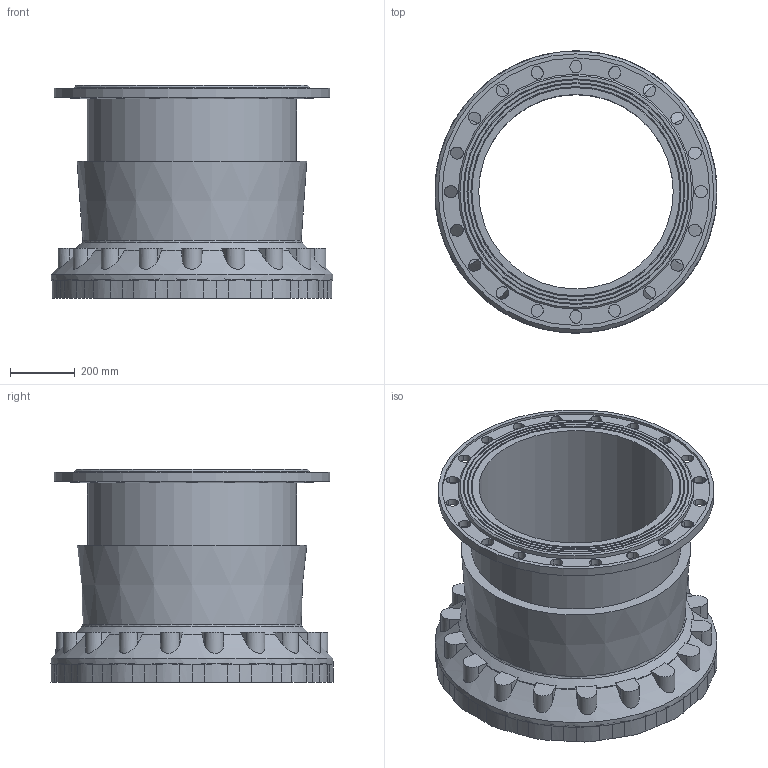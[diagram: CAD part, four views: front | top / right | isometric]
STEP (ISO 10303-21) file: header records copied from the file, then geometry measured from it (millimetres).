
FILE_DESCRIPTION (( 'STEP AP203' ), '1' );
FILE_NAME ('O_633_00_DN600_AA0.step', '2018-07-03T06:07:54', ( 'Windows User' ), ( 'AVK' ), 'SwSTEP 2.0', 'SolidWorks 2012', '' );
FILE_SCHEMA (( 'CONFIG_CONTROL_DESIGN' ));
Length unit declared in the file: millimetre
Products named in the file (1): O_633_00_DN600_AA0
Bounding box: 869.54 x 870.98 x 656.85 mm (x, y, z)
Volume: 82667563.2 mm3; surface area: 3854682.1 mm2
Topology: 1 solids, 1 shells, 362 faces, 1044 edges, 692 vertices
Faces by surface type: cylinder 212, plane 97, cone 48, torus 4, bspline 1
Full cylindrical faces by diameter (mm): 600 x1, 645 x1, 725 x1, 825 x1, 850 x1, 870 x1
Entity records: 15345 total; most frequent: CARTESIAN_POINT 6009, ORIENTED_EDGE 2028, DIRECTION 1814, EDGE_CURVE 1014, AXIS2_PLACEMENT_3D 702, VERTEX_POINT 685, EDGE_LOOP 433, VECTOR 410
